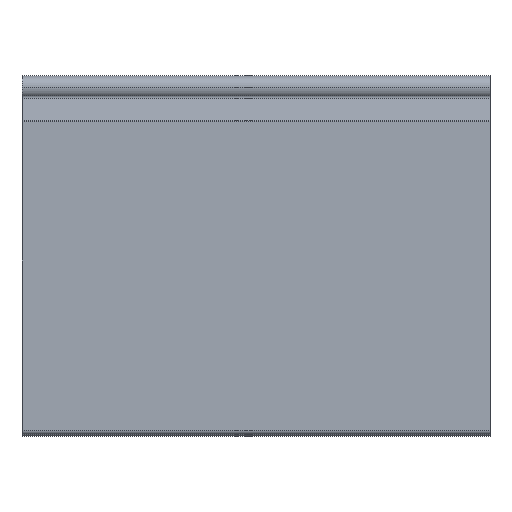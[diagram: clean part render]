
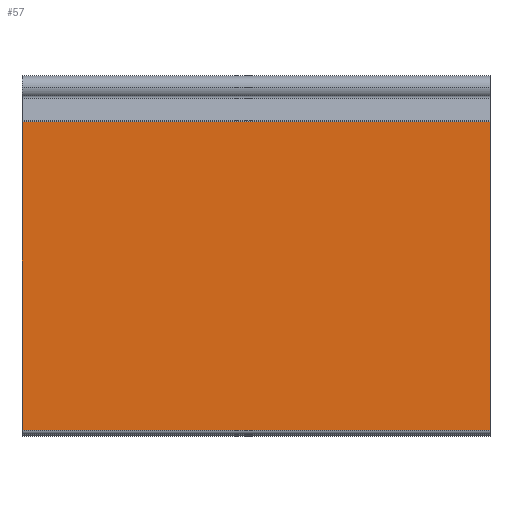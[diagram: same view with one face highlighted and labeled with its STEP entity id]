
A CAD part, top view. The second image highlights one B-rep face of the part: STEP entity #57.
In plain terms, the highlighted planar face has unit normal (0, 0, 1).
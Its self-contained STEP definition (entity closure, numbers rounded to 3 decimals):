
#1 = VERTEX_POINT ( 'NONE', #2 ) ;
#2 = CARTESIAN_POINT ( 'NONE',  ( -83., -121.663, 4.05 ) ) ;
#18 = VERTEX_POINT ( 'NONE', #230 ) ;
#33 = PLANE ( 'NONE',  #1202 ) ;
#35 = CARTESIAN_POINT ( 'NONE',  ( 83., -12.164, 4.05 ) ) ;
#36 = DIRECTION ( 'NONE',  ( 0., 0., -1. ) ) ;
#37 = DIRECTION ( 'NONE',  ( 0., 1., 0. ) ) ;
#57 = ADVANCED_FACE ( 'NONE', ( #1230 ), #33, .F. ) ;
#80 = CARTESIAN_POINT ( 'NONE',  ( 83., -12.164, 4.05 ) ) ;
#144 = EDGE_CURVE ( 'NONE', #545, #18, #834, .T. ) ;
#145 = EDGE_CURVE ( 'NONE', #478, #1, #830, .T. ) ;
#172 = CARTESIAN_POINT ( 'NONE',  ( 83., -121.663, 4.05 ) ) ;
#230 = CARTESIAN_POINT ( 'NONE',  ( -83., -12.164, 4.05 ) ) ;
#288 = EDGE_CURVE ( 'NONE', #18, #1, #766, .T. ) ;
#478 = VERTEX_POINT ( 'NONE', #172 ) ;
#545 = VERTEX_POINT ( 'NONE', #80 ) ;
#566 = LINE ( 'NONE', #1026, #569 ) ;
#569 = VECTOR ( 'NONE', #1027, 1000. ) ;
#627 = EDGE_CURVE ( 'NONE', #545, #478, #566, .T. ) ;
#766 = LINE ( 'NONE', #900, #768 ) ;
#768 = VECTOR ( 'NONE', #901, 1000. ) ;
#786 = ORIENTED_EDGE ( 'NONE', *, *, #288, .T. ) ;
#787 = ORIENTED_EDGE ( 'NONE', *, *, #145, .F. ) ;
#788 = ORIENTED_EDGE ( 'NONE', *, *, #627, .F. ) ;
#789 = ORIENTED_EDGE ( 'NONE', *, *, #144, .T. ) ;
#804 = EDGE_LOOP ( 'NONE', ( #786, #787, #788, #789 ) ) ;
#830 = LINE ( 'NONE', #922, #836 ) ;
#834 = LINE ( 'NONE', #924, #835 ) ;
#835 = VECTOR ( 'NONE', #925, 1000. ) ;
#836 = VECTOR ( 'NONE', #928, 1000. ) ;
#900 = CARTESIAN_POINT ( 'NONE',  ( -83., -12.164, 4.05 ) ) ;
#901 = DIRECTION ( 'NONE',  ( 0., -1., 0. ) ) ;
#922 = CARTESIAN_POINT ( 'NONE',  ( 83., -121.663, 4.05 ) ) ;
#924 = CARTESIAN_POINT ( 'NONE',  ( 83., -12.164, 4.05 ) ) ;
#925 = DIRECTION ( 'NONE',  ( -1., 0., 0. ) ) ;
#928 = DIRECTION ( 'NONE',  ( -1., 0., 0. ) ) ;
#1026 = CARTESIAN_POINT ( 'NONE',  ( 83., -12.164, 4.05 ) ) ;
#1027 = DIRECTION ( 'NONE',  ( 0., -1., 0. ) ) ;
#1202 = AXIS2_PLACEMENT_3D ( 'NONE', #35, #36, #37 ) ;
#1230 = FACE_OUTER_BOUND ( 'NONE', #804, .T. ) ;
